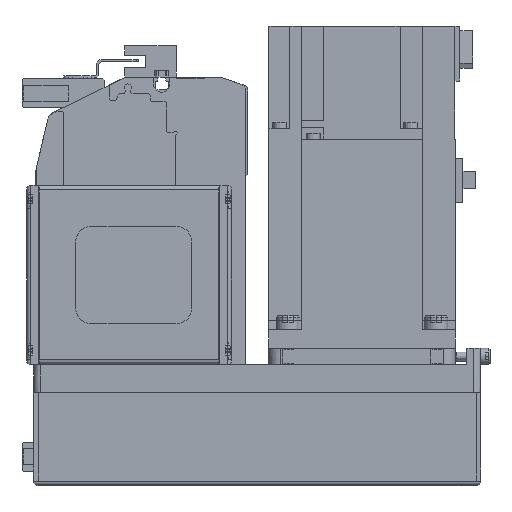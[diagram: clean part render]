
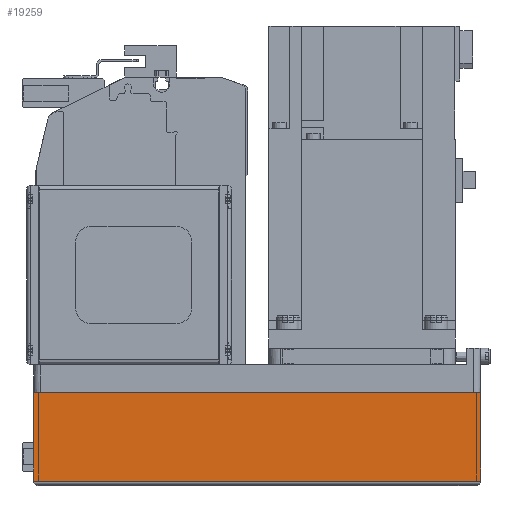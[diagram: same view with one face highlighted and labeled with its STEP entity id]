
A CAD part, left-side view. The second image highlights one B-rep face of the part: STEP entity #19259.
In plain terms, the highlighted planar face has unit normal (-1, 0, 0) as drawn and (0, 1, 0) by its records, which use the part's own axes.
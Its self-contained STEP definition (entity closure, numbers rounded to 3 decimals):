
#2976=ORIENTED_EDGE('',*,*,#7767,.F.);
#2977=ORIENTED_EDGE('',*,*,#7807,.F.);
#2978=ORIENTED_EDGE('',*,*,#7744,.T.);
#2979=ORIENTED_EDGE('',*,*,#7757,.T.);
#7744=EDGE_CURVE('',#10303,#10306,#12282,.T.);
#7757=EDGE_CURVE('',#10306,#10318,#12295,.T.);
#7767=EDGE_CURVE('',#10326,#10318,#12305,.T.);
#7807=EDGE_CURVE('',#10303,#10326,#12323,.T.);
#10303=VERTEX_POINT('',#29540);
#10306=VERTEX_POINT('',#29545);
#10318=VERTEX_POINT('',#29573);
#10326=VERTEX_POINT('',#29593);
#12282=LINE('',#29546,#13988);
#12295=LINE('',#29574,#14001);
#12305=LINE('',#29594,#14011);
#12323=LINE('',#29664,#14029);
#13988=VECTOR('',#23634,1000.);
#14001=VECTOR('',#23653,1000.);
#14011=VECTOR('',#23667,1000.);
#14029=VECTOR('',#23761,1000.);
#15551=EDGE_LOOP('',(#2976,#2977,#2978,#2979));
#17103=FACE_BOUND('',#15551,.T.);
#18488=PLANE('',#20646);
#19259=ADVANCED_FACE('',(#17103),#18488,.T.);
#20646=AXIS2_PLACEMENT_3D('',#29663,#23759,#23760);
#23634=DIRECTION('',(0.,0.,1.));
#23653=DIRECTION('',(1.,0.,0.));
#23667=DIRECTION('',(0.,0.,1.));
#23759=DIRECTION('',(0.,1.,0.));
#23760=DIRECTION('',(0.,0.,1.));
#23761=DIRECTION('',(1.,0.,0.));
#29540=CARTESIAN_POINT('',(-192.,40.,-50.));
#29545=CARTESIAN_POINT('',(-192.,40.,-12.1));
#29546=CARTESIAN_POINT('',(-192.,40.,-50.));
#29573=CARTESIAN_POINT('',(0.,40.,-12.1));
#29574=CARTESIAN_POINT('',(-192.,40.,-12.1));
#29593=CARTESIAN_POINT('',(0.,40.,-50.));
#29594=CARTESIAN_POINT('',(0.,40.,-50.));
#29663=CARTESIAN_POINT('',(-192.,40.,-50.));
#29664=CARTESIAN_POINT('',(-192.,40.,-50.));
